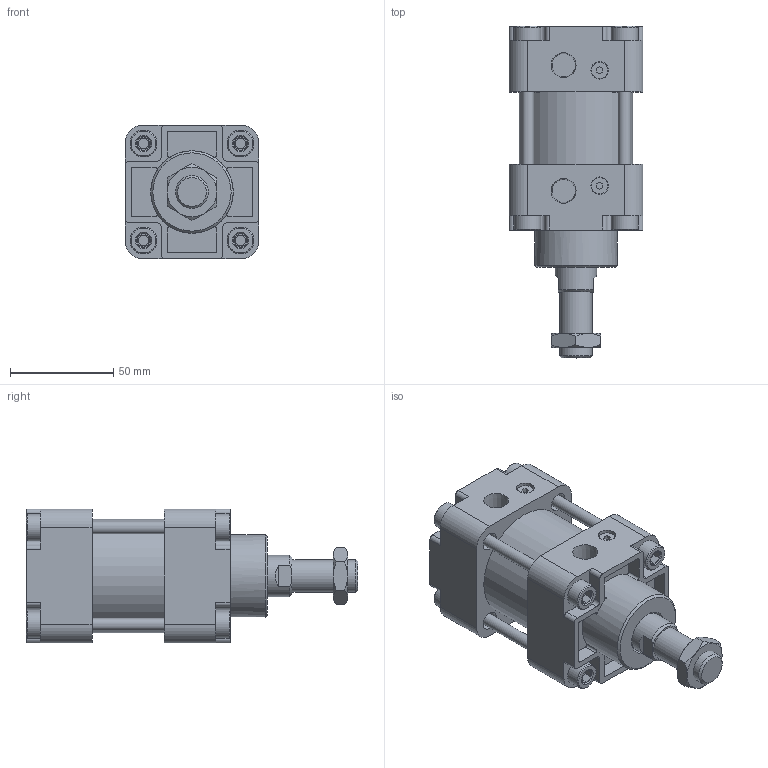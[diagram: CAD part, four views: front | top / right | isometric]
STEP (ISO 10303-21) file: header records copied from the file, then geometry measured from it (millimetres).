
FILE_DESCRIPTION(/* description */ ('Unknown'),/* implementation_level */ '2;1');
FILE_NAME(/* name */ 'WA50-0',/* time_stamp */ '2026-07-17T16:51:53+08:00',/* author */ ('Unknown'),/* organization */ ('Unknown'),/* preprocessor_version */ 'ST-DEVELOPER v16.7',/* originating_system */ 'DEX',/* authorisation */ $);
FILE_SCHEMA (('CONFIG_CONTROL_DESIGN'));
Length unit declared in the file: millimetre
Products named in the file (7): WA50-0; WA50_前; WA50_鋁; WA50_岃搵; WA50_心軸活; WA50_T帽牙; M16-1.5P-8_螺
Assembly tree (9 placements, depth 2):
  WA50-0
    WA50_前
    WA50_鋁
    WA50_岃搵
    WA50_心軸活
    WA50_T帽牙  x4
    M16-1.5P-8_螺
Bounding box: 65 x 161 x 65 mm (x, y, z)
Volume: 356525.1 mm3; surface area: 90269.9 mm2
Topology: 9 solids, 9 shells, 360 faces, 869 edges, 584 vertices
Faces by surface type: plane 205, cylinder 118, cone 37
Full cylindrical faces by diameter (mm): 5 x8, 6 x4, 8 x2, 8.5 x2, 8.8 x8, 9 x8, 13 x8, 14.5 x1, 16 x1, 20 x2, 40 x1, 49.5 x1, 50 x3, 55 x1
Entity records: 9289 total; most frequent: CARTESIAN_POINT 1363, DIRECTION 1322, ORIENTED_EDGE 1174, EDGE_CURVE 587, AXIS2_PLACEMENT_3D 498, VERTEX_POINT 411, EDGE_LOOP 344, FACE_BOUND 344
